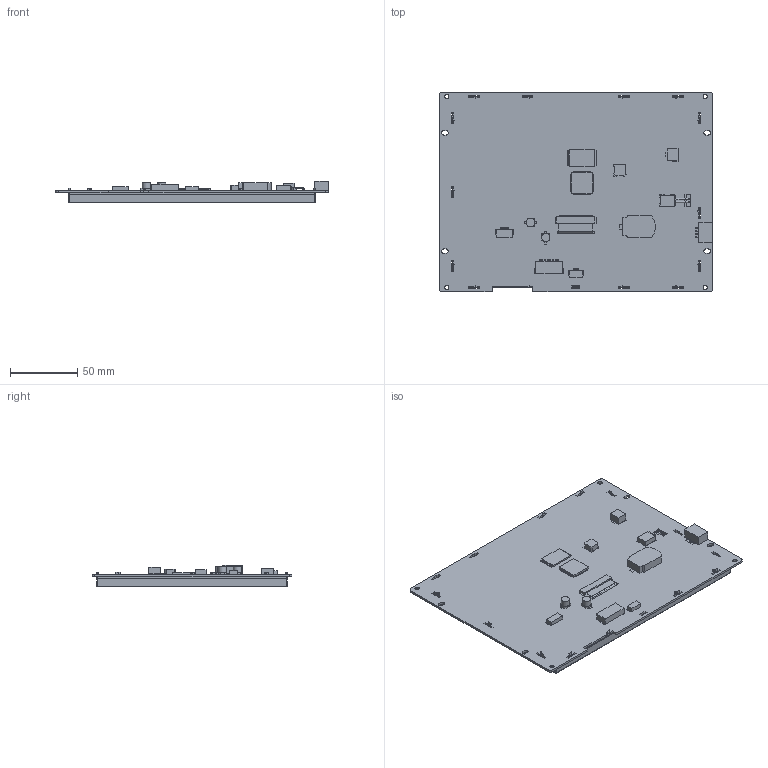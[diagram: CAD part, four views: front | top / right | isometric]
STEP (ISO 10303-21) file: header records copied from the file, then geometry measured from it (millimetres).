
FILE_DESCRIPTION(/* description */ (''),/* implementation_level */ '2;1');
FILE_NAME(/* name */ '3D_SDWe080Tx7N.stp',/* time_stamp */ '2020-09-27T17:11:53+08:00',/* author */ (''),/* organization */ (''),/* preprocessor_version */ 'ST-DEVELOPER v15',/* originating_system */ 'SIEMENS PLM Software NX 8.5',/* authorisation */ '');
FILE_SCHEMA (('AP203_CONFIGURATION_CONTROLLED_3D_DESIGN_OF_MECHANICAL_PARTS_AND_ASSEMBLIES_MIM_LF { 1 0 10303 403 2 1 2}'));
Length unit declared in the file: millimetre
Products named in the file (1): SDWe080Tx7
Bounding box: 203 x 148.8 x 15.8 mm (x, y, z)
Volume: 208168.4 mm3; surface area: 159135.4 mm2
Topology: 338 solids, 338 shells, 2222 faces, 4636 edges, 3090 vertices
Faces by surface type: plane 2117, cylinder 95, extrusion 6, torus 4
Full cylindrical faces by diameter (mm): 1 x6, 3.2 x4, 6.193 x2
Entity records: 61601 total; most frequent: CARTESIAN_POINT 10329, ORIENTED_EDGE 9216, DIRECTION 9202, EDGE_CURVE 4608, VECTOR 4388, LINE 4382, VERTEX_POINT 3084, AXIS2_PLACEMENT_3D 2407
